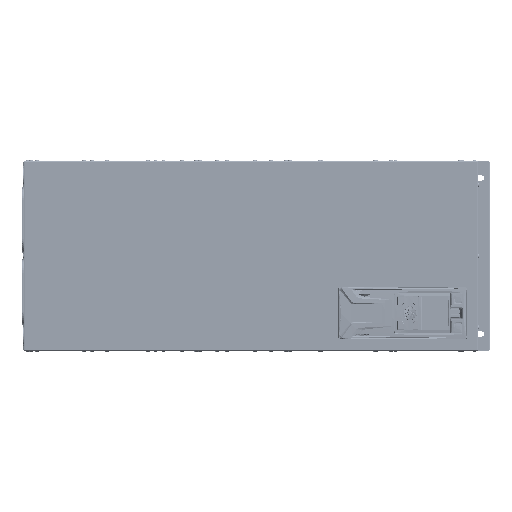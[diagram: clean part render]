
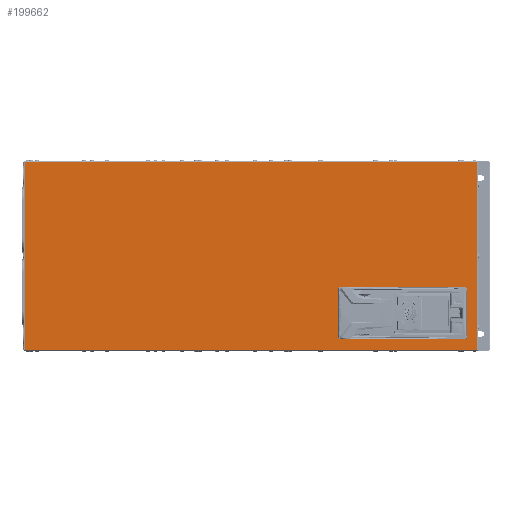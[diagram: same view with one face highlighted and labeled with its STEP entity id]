
A CAD part, left-side view. The second image highlights one B-rep face of the part: STEP entity #199662.
In plain terms, the highlighted planar face has unit normal (-1, 0, 0).
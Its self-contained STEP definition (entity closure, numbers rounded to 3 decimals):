
#197841=DIRECTION('',(0.,-1.,0.));
#197842=VECTOR('',#197841,815.);
#197843=CARTESIAN_POINT('',(-204.5,470.5,-168.8));
#197844=LINE('',#197843,#197842);
#198024=DIRECTION('',(0.,-1.,0.));
#198025=VECTOR('',#198024,1.2);
#198026=CARTESIAN_POINT('',(-204.5,470.5,168.7));
#198027=LINE('',#198026,#198025);
#198220=DIRECTION('',(0.,1.,0.));
#198221=VECTOR('',#198220,1.2);
#198222=CARTESIAN_POINT('',(-204.5,-344.5,-168.7));
#198223=LINE('',#198222,#198221);
#198261=DIRECTION('',(0.,0.,-1.));
#198262=VECTOR('',#198261,0.1);
#198263=CARTESIAN_POINT('',(-204.5,-344.5,-168.7));
#198264=LINE('',#198263,#198262);
#198265=DIRECTION('',(0.,0.,1.));
#198266=VECTOR('',#198265,0.1);
#198267=CARTESIAN_POINT('',(-204.5,470.5,-168.8));
#198268=LINE('',#198267,#198266);
#198269=DIRECTION('',(0.,-1.,0.));
#198270=VECTOR('',#198269,1.2);
#198271=CARTESIAN_POINT('',(-204.5,470.5,-168.7));
#198272=LINE('',#198271,#198270);
#198273=DIRECTION('',(0.,0.,1.));
#198274=VECTOR('',#198273,0.1);
#198275=CARTESIAN_POINT('',(-204.5,470.5,168.7));
#198276=LINE('',#198275,#198274);
#198277=DIRECTION('',(0.,0.,-1.));
#198278=VECTOR('',#198277,0.1);
#198279=CARTESIAN_POINT('',(-204.5,-344.5,168.8));
#198280=LINE('',#198279,#198278);
#198281=DIRECTION('',(0.,1.,0.));
#198282=VECTOR('',#198281,1.2);
#198283=CARTESIAN_POINT('',(-204.5,-344.5,168.7));
#198284=LINE('',#198283,#198282);
#198285=DIRECTION('',(0.,-1.,0.));
#198286=VECTOR('',#198285,220.);
#198287=CARTESIAN_POINT('',(-204.5,-99.5,-145.));
#198288=LINE('',#198287,#198286);
#198289=DIRECTION('',(0.,0.,1.));
#198290=VECTOR('',#198289,85.);
#198291=CARTESIAN_POINT('',(-204.5,-319.5,-145.));
#198292=LINE('',#198291,#198290);
#198293=DIRECTION('',(0.,1.,0.));
#198294=VECTOR('',#198293,220.);
#198295=CARTESIAN_POINT('',(-204.5,-319.5,-60.));
#198296=LINE('',#198295,#198294);
#198297=DIRECTION('',(0.,0.,-1.));
#198298=VECTOR('',#198297,85.);
#198299=CARTESIAN_POINT('',(-204.5,-99.5,-60.));
#198300=LINE('',#198299,#198298);
#198305=DIRECTION('',(0.,0.,1.));
#198306=VECTOR('',#198305,337.4);
#198307=CARTESIAN_POINT('',(-204.5,-343.3,-168.7));
#198308=LINE('',#198307,#198306);
#198313=DIRECTION('',(0.,0.,-1.));
#198314=VECTOR('',#198313,337.4);
#198315=CARTESIAN_POINT('',(-204.5,469.3,168.7));
#198316=LINE('',#198315,#198314);
#198321=DIRECTION('',(0.,1.,0.));
#198322=VECTOR('',#198321,815.);
#198323=CARTESIAN_POINT('',(-204.5,-344.5,168.8));
#198324=LINE('',#198323,#198322);
#198401=CARTESIAN_POINT('',(-204.5,470.5,-168.8));
#198402=VERTEX_POINT('',#198401);
#198403=CARTESIAN_POINT('',(-204.5,-344.5,-168.8));
#198404=VERTEX_POINT('',#198403);
#198405=CARTESIAN_POINT('',(-204.5,470.5,168.7));
#198406=VERTEX_POINT('',#198405);
#198407=CARTESIAN_POINT('',(-204.5,470.5,168.8));
#198408=VERTEX_POINT('',#198407);
#198409=CARTESIAN_POINT('',(-204.5,470.5,-168.7));
#198410=VERTEX_POINT('',#198409);
#198411=CARTESIAN_POINT('',(-204.5,469.3,168.7));
#198412=VERTEX_POINT('',#198411);
#198413=CARTESIAN_POINT('',(-204.5,-343.3,-168.7));
#198414=CARTESIAN_POINT('',(-204.5,-343.3,168.7));
#198415=VERTEX_POINT('',#198413);
#198416=VERTEX_POINT('',#198414);
#198417=CARTESIAN_POINT('',(-204.5,-344.5,-168.7));
#198418=VERTEX_POINT('',#198417);
#198419=CARTESIAN_POINT('',(-204.5,469.3,-168.7));
#198420=VERTEX_POINT('',#198419);
#198421=CARTESIAN_POINT('',(-204.5,-344.5,168.8));
#198422=VERTEX_POINT('',#198421);
#198423=CARTESIAN_POINT('',(-204.5,-344.5,168.7));
#198424=VERTEX_POINT('',#198423);
#198425=CARTESIAN_POINT('',(-204.5,-99.5,-145.));
#198426=CARTESIAN_POINT('',(-204.5,-319.5,-145.));
#198427=VERTEX_POINT('',#198425);
#198428=VERTEX_POINT('',#198426);
#198429=CARTESIAN_POINT('',(-204.5,-319.5,-60.));
#198430=VERTEX_POINT('',#198429);
#198431=CARTESIAN_POINT('',(-204.5,-99.5,-60.));
#198432=VERTEX_POINT('',#198431);
#199630=CARTESIAN_POINT('',(-204.5,0.,0.));
#199631=DIRECTION('',(-1.,0.,0.));
#199632=DIRECTION('',(0.,0.,-1.));
#199633=AXIS2_PLACEMENT_3D('',#199630,#199631,#199632);
#199634=PLANE('',#199633);
#199636=ORIENTED_EDGE('',*,*,#199635,.F.);
#199637=ORIENTED_EDGE('',*,*,#199538,.F.);
#199638=ORIENTED_EDGE('',*,*,#199560,.T.);
#199639=ORIENTED_EDGE('',*,*,#198640,.F.);
#199640=ORIENTED_EDGE('',*,*,#198680,.T.);
#199641=ORIENTED_EDGE('',*,*,#198702,.T.);
#199643=ORIENTED_EDGE('',*,*,#199642,.F.);
#199644=ORIENTED_EDGE('',*,*,#199060,.F.);
#199645=ORIENTED_EDGE('',*,*,#199082,.T.);
#199647=ORIENTED_EDGE('',*,*,#199646,.F.);
#199648=ORIENTED_EDGE('',*,*,#199246,.T.);
#199649=ORIENTED_EDGE('',*,*,#199268,.T.);
#199650=EDGE_LOOP('',(#199636,#199637,#199638,#199639,#199640,#199641,#199643,
#199644,#199645,#199647,#199648,#199649));
#199651=FACE_OUTER_BOUND('',#199650,.F.);
#199653=ORIENTED_EDGE('',*,*,#199652,.T.);
#199655=ORIENTED_EDGE('',*,*,#199654,.T.);
#199657=ORIENTED_EDGE('',*,*,#199656,.T.);
#199659=ORIENTED_EDGE('',*,*,#199658,.T.);
#199660=EDGE_LOOP('',(#199653,#199655,#199657,#199659));
#199661=FACE_BOUND('',#199660,.F.);
#198640=EDGE_CURVE('',#198402,#198404,#197844,.T.);
#198680=EDGE_CURVE('',#198402,#198410,#198268,.T.);
#198702=EDGE_CURVE('',#198410,#198420,#198272,.T.);
#199060=EDGE_CURVE('',#198406,#198412,#198027,.T.);
#199082=EDGE_CURVE('',#198406,#198408,#198276,.T.);
#199246=EDGE_CURVE('',#198422,#198424,#198280,.T.);
#199268=EDGE_CURVE('',#198424,#198416,#198284,.T.);
#199538=EDGE_CURVE('',#198418,#198415,#198223,.T.);
#199560=EDGE_CURVE('',#198418,#198404,#198264,.T.);
#199635=EDGE_CURVE('',#198415,#198416,#198308,.T.);
#199642=EDGE_CURVE('',#198412,#198420,#198316,.T.);
#199646=EDGE_CURVE('',#198422,#198408,#198324,.T.);
#199652=EDGE_CURVE('',#198427,#198428,#198288,.T.);
#199654=EDGE_CURVE('',#198428,#198430,#198292,.T.);
#199656=EDGE_CURVE('',#198430,#198432,#198296,.T.);
#199658=EDGE_CURVE('',#198432,#198427,#198300,.T.);
#199662=ADVANCED_FACE('',(#199651,#199661),#199634,.T.);
